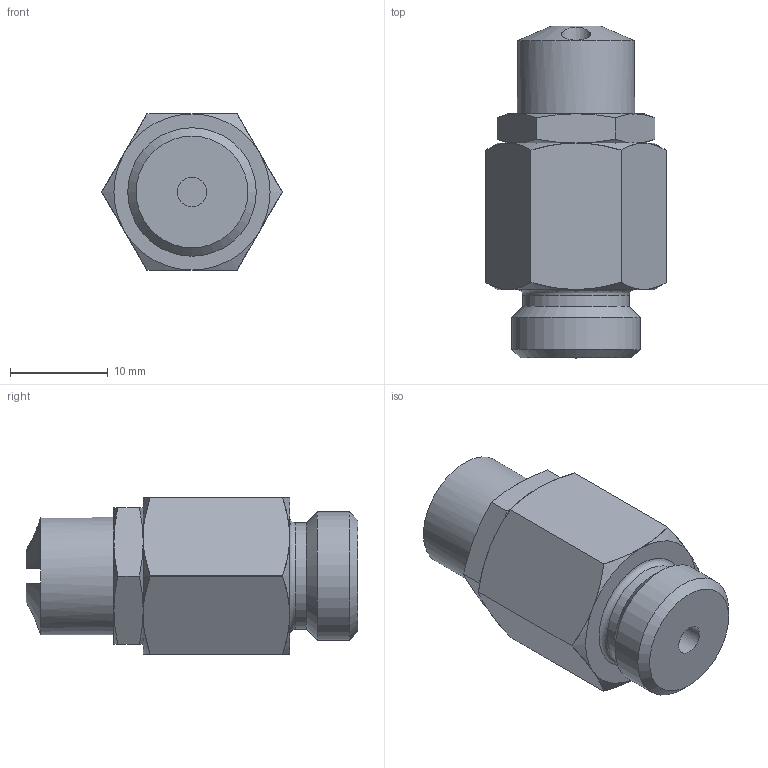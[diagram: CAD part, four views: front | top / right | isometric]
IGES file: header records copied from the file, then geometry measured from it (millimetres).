
Start section: Data from Parasolid IGES Translator 15.0.47, Copyright(c) 2006 Siemens P LM Software. All Rights Reserved.
Global section: file name: 218_24.igs; native system:  By UGS Corp.; preprocessor: XPlus GENERIC/IGES 3.0; author: Noname; organization: Noname; date: 20140806.094802; units: millimetre
Bounding box: 18.48 x 34 x 16 mm (x, y, z)
Surface area: 2238.6 mm2 (no closed solid volume)
Topology: 0 solids, 0 shells, 60 faces, 252 edges, 239 vertices
Faces by surface type: revolution 36, extrusion 24
